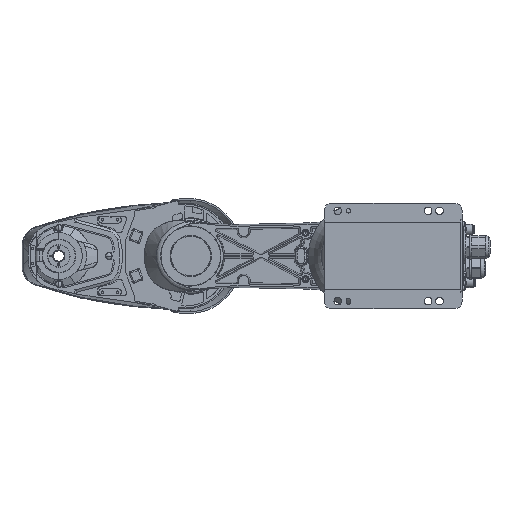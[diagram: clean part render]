
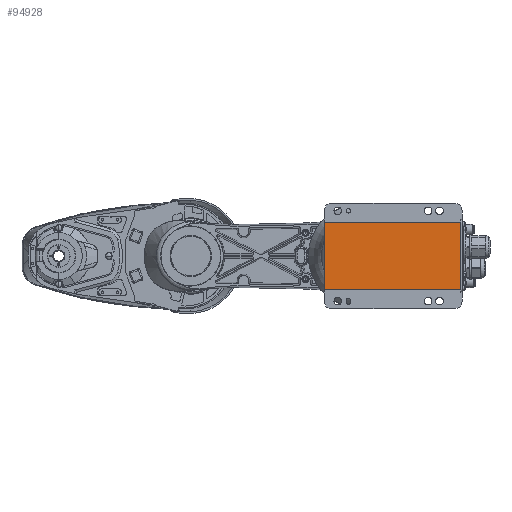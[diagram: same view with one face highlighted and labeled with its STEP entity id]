
A CAD part, front view. The second image highlights one B-rep face of the part: STEP entity #94928.
In plain terms, the highlighted planar face has unit normal (0, -1, 0).
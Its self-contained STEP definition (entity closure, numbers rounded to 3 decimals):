
#367 = VECTOR ( 'NONE', #120705, 1000. ) ;
#6104 = FACE_OUTER_BOUND ( 'NONE', #70785, .T. ) ;
#7923 = DIRECTION ( 'NONE',  ( 1., 0., 0. ) ) ;
#10143 = VECTOR ( 'NONE', #67282, 1000. ) ;
#10595 = CARTESIAN_POINT ( 'NONE',  ( -48., 2., 45. ) ) ;
#18823 = ORIENTED_EDGE ( 'NONE', *, *, #32875, .T. ) ;
#30546 = VERTEX_POINT ( 'NONE', #116091 ) ;
#32875 = EDGE_CURVE ( 'NONE', #110627, #57853, #46278, .T. ) ;
#33707 = DIRECTION ( 'NONE',  ( 0., 1., 0. ) ) ;
#39349 = CARTESIAN_POINT ( 'NONE',  ( -48., 2., -45. ) ) ;
#45791 = LINE ( 'NONE', #55433, #116046 ) ;
#46278 = LINE ( 'NONE', #87879, #367 ) ;
#49974 = ORIENTED_EDGE ( 'NONE', *, *, #82232, .T. ) ;
#55433 = CARTESIAN_POINT ( 'NONE',  ( -48., 2., 45. ) ) ;
#57047 = LINE ( 'NONE', #97908, #10143 ) ;
#57387 = CARTESIAN_POINT ( 'NONE',  ( 0., 2., 0. ) ) ;
#57853 = VERTEX_POINT ( 'NONE', #10595 ) ;
#58717 = DIRECTION ( 'NONE',  ( 1., 0., 0. ) ) ;
#63075 = VECTOR ( 'NONE', #7923, 1000. ) ;
#67282 = DIRECTION ( 'NONE',  ( 0., 0., -1. ) ) ;
#68988 = PLANE ( 'NONE',  #101323 ) ;
#69450 = CARTESIAN_POINT ( 'NONE',  ( -48., 2., -45. ) ) ;
#70785 = EDGE_LOOP ( 'NONE', ( #75982, #18823, #95441, #49974 ) ) ;
#75982 = ORIENTED_EDGE ( 'NONE', *, *, #95981, .F. ) ;
#82232 = EDGE_CURVE ( 'NONE', #123491, #30546, #91155, .T. ) ;
#87879 = CARTESIAN_POINT ( 'NONE',  ( 133., 2., 45. ) ) ;
#91155 = LINE ( 'NONE', #69450, #63075 ) ;
#94928 = ADVANCED_FACE ( 'NONE', ( #6104 ), #68988, .F. ) ;
#95441 = ORIENTED_EDGE ( 'NONE', *, *, #111590, .T. ) ;
#95981 = EDGE_CURVE ( 'NONE', #110627, #30546, #57047, .T. ) ;
#96986 = DIRECTION ( 'NONE',  ( 0., 0., -1. ) ) ;
#97908 = CARTESIAN_POINT ( 'NONE',  ( 133., 2., 45. ) ) ;
#101323 = AXIS2_PLACEMENT_3D ( 'NONE', #57387, #33707, #58717 ) ;
#110627 = VERTEX_POINT ( 'NONE', #114116 ) ;
#111590 = EDGE_CURVE ( 'NONE', #57853, #123491, #45791, .T. ) ;
#114116 = CARTESIAN_POINT ( 'NONE',  ( 133., 2., 45. ) ) ;
#116046 = VECTOR ( 'NONE', #96986, 1000. ) ;
#116091 = CARTESIAN_POINT ( 'NONE',  ( 133., 2., -45. ) ) ;
#120705 = DIRECTION ( 'NONE',  ( -1., 0., 0. ) ) ;
#123491 = VERTEX_POINT ( 'NONE', #39349 ) ;
